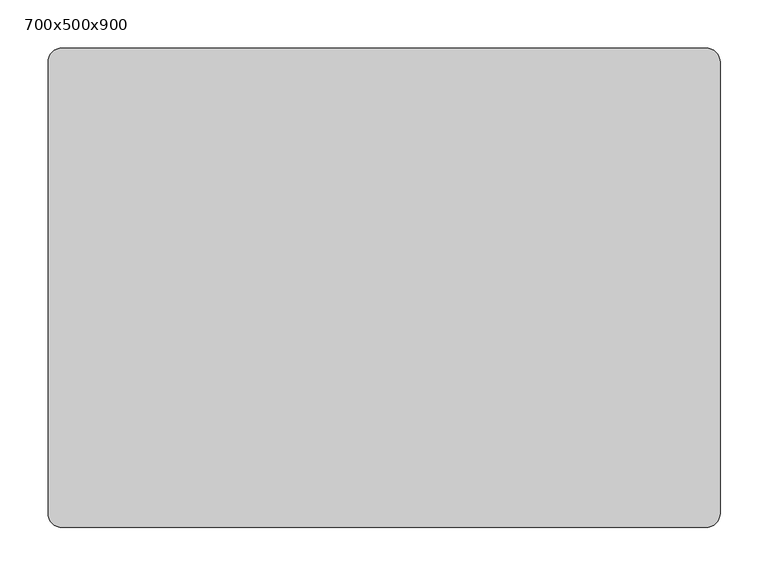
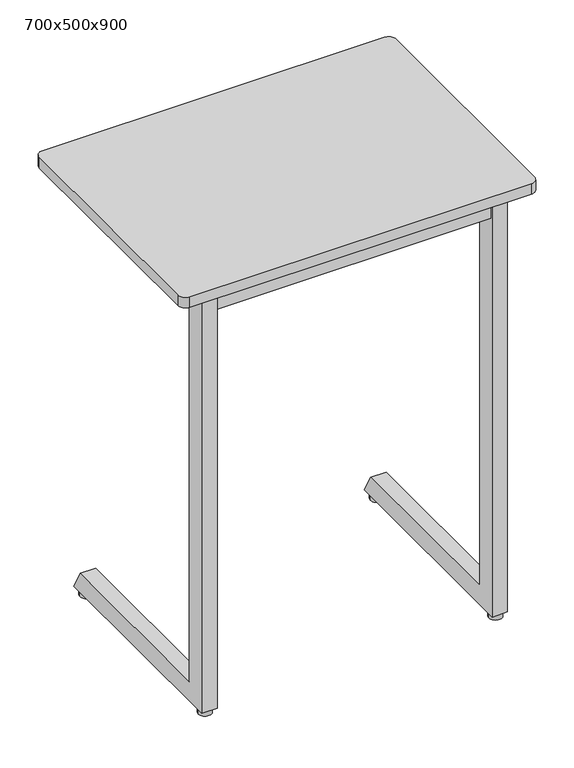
"""IFC4 building model written with IfcOpenShell, lengths in millimetres: furniture geometry, Trivia Light : 700x500x900."""

from ifc_helpers import new_model, si_unit, point, frame, frame_2d, origin, origin_with_axes, place, context, project, spatial, polyline, circle_curve, trimmed, segment, composite_curve, outline, extrude, source, transform, mapped, element, save


def furniture_700x500x900_e1185485(model_context):
    return source(origin(), model_context, "Body", "SweptSolid", [
        extrude(outline(polyline([(434.5100173, 878.0), (419.9996059, 846.4981092), (54.0, 846.4977978), (54.0, 878.0), (434.5100173, 878.0)])), frame((-214.7535601, 0.0, 0.0), z_axis=(1.0, 0.0, 0.0), x_axis=(0.0, 1.0, 0.0)), (0.0, 0.0, 1.0), 30.0),
        extrude(outline(polyline([(873.7997437, -217.7502136), (850.730957, -217.7502136), (850.730957, -249.8065042), (855.0394353, -261.6439509), (852.2203574, -262.6700113), (847.730957, -250.3354852), (847.730957, -214.7502136), (873.7997437, -214.7502136), (873.7997437, -217.7502136)])), frame((0.0, 215.0, 0.0), z_axis=(0.0, 1.0, 0.0), x_axis=(0.0, 0.0, 1.0)), (0.0, 0.0, 1.0), 30.0),
        extrude(outline(polyline([(873.7997437, 217.7535601), (873.7997437, 214.7535601), (847.730957, 214.7535601), (847.730957, 250.3388316), (852.2203574, 262.6733577), (855.0394353, 261.6472973), (850.730957, 249.8098507), (850.730957, 217.7535601), (873.7997437, 217.7535601)])), frame((0.0, 215.0, 0.0), z_axis=(0.0, 1.0, 0.0), x_axis=(0.0, 0.0, 1.0)), (0.0, 0.0, 1.0), 30.0),
        extrude(outline(composite_curve([segment(trimmed(circle_curve(frame_2d((-285.0, 35.0)), 13.0), [point((-298.0, 35.0))], [point((-272.0, 35.0))], False, "CARTESIAN"), True, "CONTINUOUS"), segment(trimmed(circle_curve(frame_2d((-285.0, 35.0)), 13.0), [point((-272.0, 35.0))], [point((-298.0, 35.0))], False, "CARTESIAN"), True, "CONTINUOUS")], self_intersect=False)), origin_with_axes(), (0.0, 0.0, 1.0), 13.0905762),
        extrude(outline(composite_curve([segment(trimmed(circle_curve(frame_2d((285.0, 35.0)), 13.0), [point((272.0, 35.0))], [point((298.0, 35.0))], False, "CARTESIAN"), True, "CONTINUOUS"), segment(trimmed(circle_curve(frame_2d((285.0, 35.0)), 13.0), [point((298.0, 35.0))], [point((272.0, 35.0))], False, "CARTESIAN"), True, "CONTINUOUS")], self_intersect=False)), origin_with_axes(), (0.0, 0.0, 1.0), 13.0905762),
        extrude(outline(composite_curve([segment(trimmed(circle_curve(frame_2d((285.0, 437.5)), 13.0), [point((272.0, 437.5))], [point((298.0, 437.5))], False, "CARTESIAN"), True, "CONTINUOUS"), segment(trimmed(circle_curve(frame_2d((285.0, 437.5)), 13.0), [point((298.0, 437.5))], [point((272.0, 437.5))], False, "CARTESIAN"), True, "CONTINUOUS")], self_intersect=False)), origin_with_axes(), (0.0, 0.0, 1.0), 13.0905762),
        extrude(outline(composite_curve([segment(trimmed(circle_curve(frame_2d((-285.0, 437.5)), 13.0), [point((-298.0, 437.5))], [point((-272.0, 437.5))], False, "CARTESIAN"), True, "CONTINUOUS"), segment(trimmed(circle_curve(frame_2d((-285.0, 437.5)), 13.0), [point((-272.0, 437.5))], [point((-298.0, 437.5))], False, "CARTESIAN"), True, "CONTINUOUS")], self_intersect=False)), origin_with_axes(), (0.0, 0.0, 1.0), 13.0905762),
        extrude(outline(polyline([(434.5100173, 878.0), (419.9996059, 846.4981092), (54.0, 846.4977978), (54.0, 878.0), (434.5100173, 878.0)])), frame((184.7535601, 0.0, 0.0), z_axis=(1.0, 0.0, 0.0), x_axis=(0.0, 1.0, 0.0)), (0.0, 0.0, 1.0), 30.0),
        extrude(outline(composite_curve([segment(trimmed(circle_curve(frame_2d((335.0, 485.0)), 15.0), [point((335.0, 500.0))], [point((350.0, 485.0))], False, "CARTESIAN"), True, "CONTINUOUS"), segment(polyline([(350.0, 485.0), (350.0, 15.0)]), True, "CONTINUOUS"), segment(trimmed(circle_curve(frame_2d((335.0, 15.0)), 15.0), [point((350.0, 15.0))], [point((335.0, 0.0))], False, "CARTESIAN"), True, "CONTINUOUS"), segment(polyline([(335.0, 0.0), (-335.0, 0.0)]), True, "CONTINUOUS"), segment(trimmed(circle_curve(frame_2d((-335.0, 15.0)), 15.0), [point((-335.0, 0.0))], [point((-350.0, 15.0))], False, "CARTESIAN"), True, "CONTINUOUS"), segment(polyline([(-350.0, 15.0), (-350.0, 485.0)]), True, "CONTINUOUS"), segment(trimmed(circle_curve(frame_2d((-335.0, 485.0)), 15.0), [point((-350.0, 485.0))], [point((-335.0, 500.0))], False, "CARTESIAN"), True, "CONTINUOUS"), segment(polyline([(-335.0, 500.0), (335.0, 500.0)]), True, "CONTINUOUS")], self_intersect=False)), frame((0.0, 0.0, 878.0), z_axis=(0.0, 0.0, 1.0), x_axis=(1.0, 0.0, 0.0)), (0.0, 0.0, 1.0), 22.0),
        extrude(outline(polyline([(269.7534307, 54.0), (269.7534307, 24.0), (-269.7534307, 24.0), (-269.7534307, 54.0), (269.7534307, 54.0)])), frame((0.0, 0.0, 836.0), z_axis=(0.0, 0.0, 1.0), x_axis=(1.0, 0.0, 0.0)), (0.0, 0.0, 1.0), 42.0),
        extrude(outline(polyline([(62.0, 51.5905762), (432.1448423, 51.5905762), (454.8944033, 11.5905762), (20.0, 11.5905762), (20.0, 878.0), (62.0, 878.0), (62.0, 51.5905762)])), frame((-299.7535601, 0.0, 0.0), z_axis=(1.0, 0.0, 0.0), x_axis=(0.0, 1.0, 0.0)), (0.0, 0.0, 1.0), 30.0001294),
        extrude(outline(polyline([(62.0, 51.5905762), (432.1448423, 51.5905762), (454.8944033, 11.5905762), (20.0, 11.5905762), (20.0, 878.0), (62.0, 878.0), (62.0, 51.5905762)])), frame((269.7534307, 0.0, 0.0), z_axis=(1.0, 0.0, 0.0), x_axis=(0.0, 1.0, 0.0)), (0.0, 0.0, 1.0), 30.0001294),
    ])


if __name__ == "__main__":
    model = new_model("IFC4")
    model_context = context("Model", 3, world=origin())
    ifc_project = project(units=[si_unit("LENGTHUNIT", "METRE", prefix="MILLI")], contexts=[model_context])
    site = spatial("IfcSite", under=ifc_project)
    building = spatial("IfcBuilding", under=site)
    placement = place(None, origin())
    furniture_700x500x900_shape = furniture_700x500x900_e1185485(model_context)
    element("IfcFurniture", 1, ObjectType="Trivia Light : 700x500x900", at=placement, inside=building, context=model_context, shape_type="MappedRepresentation", body=[
        mapped(furniture_700x500x900_shape, transform((0.0, 0.0, 0.0), x_axis=(1.0, 0.0, 0.0), y_axis=(0.0, 1.0, 0.0), z_axis=(0.0, 0.0, 1.0))),
    ])
    save(model, "model.ifc")
